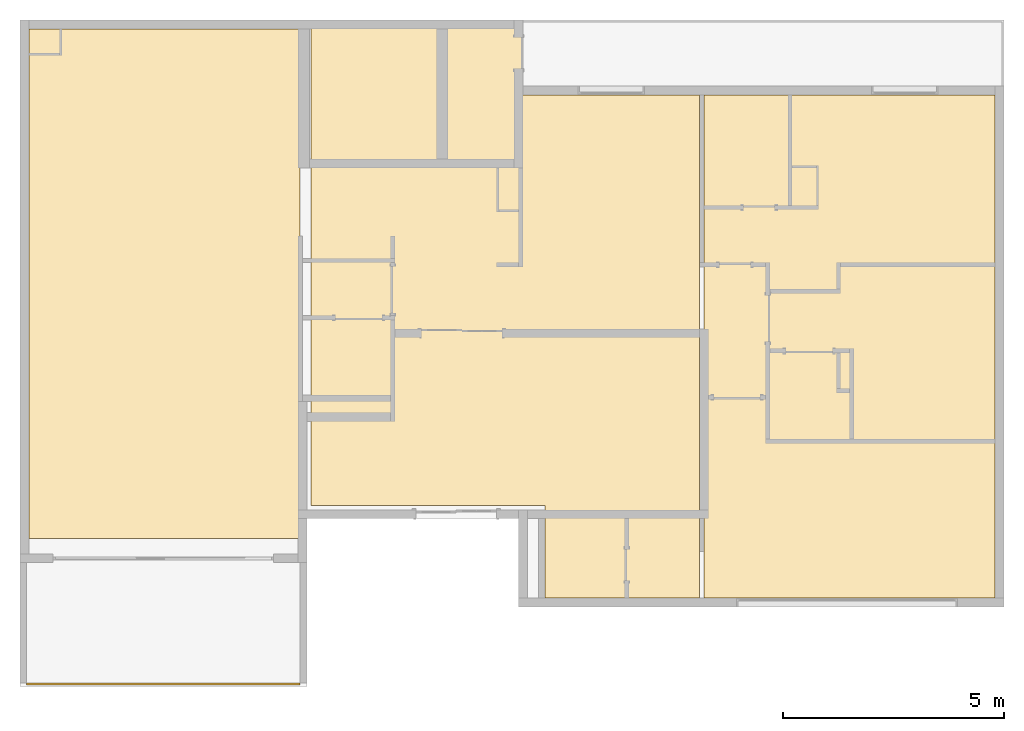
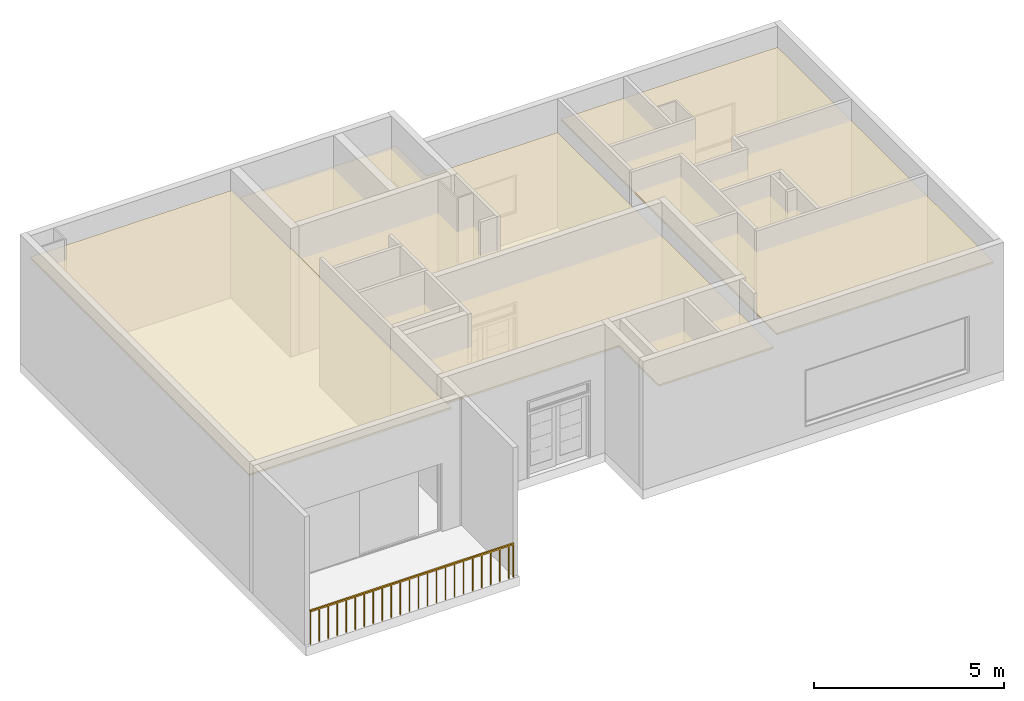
# One storey, part 7 of 8: 3 coverings, 1 railing.
"""IFC2X3 building model written with IfcOpenShell, lengths in metres."""

from ifc_helpers import new_model, entity, si_unit, converted_unit, derived_unit, direction, frame, frame_2d, origin, origin_2d_with_axis, place, context, subcontext, project, spatial, polyline, rectangle, outline, extrude, material, material_list, layer, layer_set, layer_usage, type_object, element, save


model = new_model("IFC2X3")

# Units and contexts
model_context = context("Model", 3, precision=1e-05, world=origin(), true_north=direction((6.123031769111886e-17, 1.0)))
body_context = subcontext(model_context, "Body", "Model", "MODEL_VIEW")
ifc_project = project(units=[si_unit("LENGTHUNIT", "METRE"), si_unit("AREAUNIT", "SQUARE_METRE"), si_unit("VOLUMEUNIT", "CUBIC_METRE"), converted_unit("PLANEANGLEUNIT", "DEGREE", entity("IfcRatioMeasure", 0.017453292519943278), si_unit("PLANEANGLEUNIT", "RADIAN"), dimensions=[0, 0, 0, 0, 0, 0, 0]), si_unit("MASSUNIT", "GRAM", prefix="KILO"), derived_unit("MASSDENSITYUNIT", [(si_unit("MASSUNIT", "GRAM", prefix="KILO"), 1), (si_unit("LENGTHUNIT", "METRE"), -3)]), derived_unit("MOMENTOFINERTIAUNIT", [(si_unit("LENGTHUNIT", "METRE"), 4)]), si_unit("TIMEUNIT", "SECOND"), si_unit("FREQUENCYUNIT", "HERTZ"), si_unit("THERMODYNAMICTEMPERATUREUNIT", "DEGREE_CELSIUS"), derived_unit("THERMALTRANSMITTANCEUNIT", [(si_unit("MASSUNIT", "GRAM", prefix="KILO"), 1), (si_unit("THERMODYNAMICTEMPERATUREUNIT", "KELVIN"), -1), (si_unit("TIMEUNIT", "SECOND"), -3)]), derived_unit("VOLUMETRICFLOWRATEUNIT", [(si_unit("LENGTHUNIT", "METRE"), 3), (si_unit("TIMEUNIT", "SECOND"), -1)]), derived_unit("MASSFLOWRATEUNIT", [(si_unit("MASSUNIT", "GRAM", prefix="KILO"), 1), (si_unit("TIMEUNIT", "SECOND"), -1)]), derived_unit("ROTATIONALFREQUENCYUNIT", [(si_unit("TIMEUNIT", "SECOND"), -1)]), si_unit("ELECTRICCURRENTUNIT", "AMPERE"), si_unit("ELECTRICVOLTAGEUNIT", "VOLT"), si_unit("POWERUNIT", "WATT"), si_unit("FORCEUNIT", "NEWTON", prefix="KILO"), si_unit("ILLUMINANCEUNIT", "LUX"), si_unit("LUMINOUSFLUXUNIT", "LUMEN"), si_unit("LUMINOUSINTENSITYUNIT", "CANDELA"), derived_unit("USERDEFINED", [(si_unit("MASSUNIT", "GRAM", prefix="KILO"), -1), (si_unit("LENGTHUNIT", "METRE"), -2), (si_unit("TIMEUNIT", "SECOND"), 3), (si_unit("LUMINOUSFLUXUNIT", "LUMEN"), 1)]), derived_unit("SOUNDPOWERUNIT", [(si_unit("MASSUNIT", "GRAM", prefix="KILO"), 1), (si_unit("LENGTHUNIT", "METRE"), 2), (si_unit("TIMEUNIT", "SECOND"), -3)]), derived_unit("SOUNDPRESSUREUNIT", [(si_unit("MASSUNIT", "GRAM", prefix="KILO"), 1), (si_unit("LENGTHUNIT", "METRE"), -1), (si_unit("TIMEUNIT", "SECOND"), -2)]), derived_unit("LINEARVELOCITYUNIT", [(si_unit("LENGTHUNIT", "METRE"), 1), (si_unit("TIMEUNIT", "SECOND"), -1)]), si_unit("PRESSUREUNIT", "PASCAL"), derived_unit("USERDEFINED", [(si_unit("LENGTHUNIT", "METRE"), -2), (si_unit("MASSUNIT", "GRAM", prefix="KILO"), 1), (si_unit("TIMEUNIT", "SECOND"), -2)]), derived_unit("LINEARFORCEUNIT", [(si_unit("MASSUNIT", "GRAM", prefix="KILO"), 1), (si_unit("LENGTHUNIT", "METRE"), 1), (si_unit("TIMEUNIT", "SECOND"), -2), (si_unit("LENGTHUNIT", "METRE"), -1)]), derived_unit("PLANARFORCEUNIT", [(si_unit("MASSUNIT", "GRAM", prefix="KILO"), 1), (si_unit("LENGTHUNIT", "METRE"), 1), (si_unit("TIMEUNIT", "SECOND"), -2), (si_unit("LENGTHUNIT", "METRE"), -2)])], contexts=[model_context])

# Site, building, storey
site_placement = place(None, origin())
site = spatial("IfcSite", under=ifc_project, at=site_placement, Name="Default", CompositionType="ELEMENT")
building_placement = place(site_placement, origin())
building = spatial("IfcBuilding", under=site, at=building_placement, CompositionType="ELEMENT")
storey_placement = place(building_placement, frame((0.0, 0.0, 1.1999999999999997)))
storey = spatial("IfcBuildingStorey", under=building, at=storey_placement, Name="G0", CompositionType="ELEMENT", Elevation=1.1999999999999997)

# Coverings
ifc_material_1 = material(Name="Metal - Stud Layer")
ifc_layer_1 = layer(ifc_material_1, 0.045)
ifc_material_2 = material(Name="Plasterboard")
ifc_layer_2 = layer(ifc_material_2, 0.011999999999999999)
ifc_layer_set = layer_set([ifc_layer_1, ifc_layer_2], Name="Compound Ceiling:Plain")
ifc_layer_usage_1 = layer_usage(ifc_layer_set, "AXIS3", "POSITIVE", 0.0)
covering_type_1 = type_object("IfcCoveringType", Name="Compound Ceiling:Plain", PredefinedType="CEILING")
covering_1_placement = place(storey_placement, origin())
element("IfcCovering", 1, at=covering_1_placement, inside=storey, type_object=covering_type_1, material=ifc_layer_usage_1, Name="Compound Ceiling:Plain", ObjectType="Compound Ceiling:Plain", PredefinedType="CEILING", context=body_context, shape_type="SweptSolid", body=[
    extrude(rectangle(XDim=6.149999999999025, YDim=11.545000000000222, at=frame_2d((4.440892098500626e-16, -4.440892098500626e-16), x_axis=(1.0, 0.0))), frame((9.88268321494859, 0.025190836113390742, 3.399999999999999)), (0.0, 0.0, 1.0), 0.05700000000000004),
])
ifc_layer_usage_2 = layer_usage(ifc_layer_set, "AXIS3", "POSITIVE", 0.0)
covering_type_2 = type_object("IfcCoveringType", Name="Compound Ceiling:Plain", PredefinedType="CEILING")
covering_2_placement = place(storey_placement, origin())
element("IfcCovering", 2, at=covering_2_placement, inside=storey, type_object=covering_type_2, material=ifc_layer_usage_2, Name="Compound Ceiling:Plain", ObjectType="Compound Ceiling:Plain", PredefinedType="CEILING", context=body_context, shape_type="SweptSolid", body=[
    extrude(rectangle(XDim=6.599999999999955, YDim=11.399999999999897, at=origin_2d_with_axis()), frame((25.407683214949, -1.4023091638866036, 3.399999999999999)), (0.0, 0.0, 1.0), 0.05700000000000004),
])
ifc_layer_usage_3 = layer_usage(ifc_layer_set, "AXIS3", "POSITIVE", 0.0)
covering_type_3 = type_object("IfcCoveringType", Name="Compound Ceiling:Plain", PredefinedType="CEILING")
covering_3_placement = place(storey_placement, origin())
element("IfcCovering", 3, at=covering_3_placement, inside=storey, type_object=covering_type_3, material=ifc_layer_usage_3, Name="Compound Ceiling:Plain", ObjectType="Compound Ceiling:Plain", PredefinedType="CEILING", context=body_context, shape_type="SweptSolid", body=[
    extrude(outline(polyline([(-4.075000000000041, 4.774999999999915), (-4.0750000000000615, -6.624999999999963), (-0.5749999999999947, -6.624999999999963), (-0.5749999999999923, -4.524999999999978), (4.725000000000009, -4.524999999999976), (4.725000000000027, 6.375000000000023), (-0.07499999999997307, 6.375000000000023), (-0.0749999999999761, 4.774999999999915), (-4.075000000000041, 4.774999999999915)])), frame((17.93268321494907, -0.47730916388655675, 3.0), z_axis=(0.0, 0.0, -1.0), x_axis=(-1.0, 0.0, 0.0)), (0.0, 0.0, -1.0), 0.05700000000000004),
])

# Railing
ifc_material_3 = material(Name="<Unnamed>")
ifc_material_list = material_list([ifc_material_3, ifc_material_3, ifc_material_3, ifc_material_3, ifc_material_3, ifc_material_3, ifc_material_3, ifc_material_3, ifc_material_3, ifc_material_3, ifc_material_3, ifc_material_3, ifc_material_3, ifc_material_3, ifc_material_3, ifc_material_3, ifc_material_3, ifc_material_3, ifc_material_3, ifc_material_3, ifc_material_3, ifc_material_3, ifc_material_3, ifc_material_3, ifc_material_3])
railing_placement = place(storey_placement, origin())
element("IfcRailing", 4, at=railing_placement, inside=storey, material=ifc_material_list, Name="Railing:1100mm", ObjectType="Railing:1100mm", PredefinedType="NOTDEFINED", context=body_context, shape_type="SweptSolid", body=[
    extrude(rectangle(XDim=0.025000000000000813, YDim=0.02499999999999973, at=frame_2d((0.0, -1.0824674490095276e-15), x_axis=(1.0, 0.0))), frame((12.807683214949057, -9.052309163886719, 0.0)), (0.0, 0.0, 1.0), 1.049999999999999),
    extrude(rectangle(XDim=0.025000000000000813, YDim=0.02499999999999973, at=origin_2d_with_axis()), frame((12.532683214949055, -9.052309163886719, 0.0)), (0.0, 0.0, 1.0), 1.049999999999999),
    extrude(rectangle(XDim=0.025000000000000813, YDim=0.02499999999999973, at=origin_2d_with_axis()), frame((12.257683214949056, -9.052309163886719, 0.0)), (0.0, 0.0, 1.0), 1.049999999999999),
    extrude(rectangle(XDim=0.025000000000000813, YDim=0.02499999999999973, at=origin_2d_with_axis()), frame((11.982683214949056, -9.052309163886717, 0.0)), (0.0, 0.0, 1.0), 1.049999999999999),
    extrude(rectangle(XDim=0.025000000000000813, YDim=0.02499999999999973, at=frame_2d((0.0, 1.0824674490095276e-15), x_axis=(1.0, 0.0))), frame((11.707683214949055, -9.052309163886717, 0.0)), (0.0, 0.0, 1.0), 1.049999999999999),
    extrude(rectangle(XDim=0.025000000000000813, YDim=0.02499999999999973, at=frame_2d((0.0, 1.0824674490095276e-15), x_axis=(1.0, 0.0))), frame((11.432683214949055, -9.052309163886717, 0.0)), (0.0, 0.0, 1.0), 1.049999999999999),
    extrude(rectangle(XDim=0.025000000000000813, YDim=0.02499999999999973, at=origin_2d_with_axis()), frame((11.157683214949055, -9.052309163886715, 0.0)), (0.0, 0.0, 1.0), 1.049999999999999),
    extrude(rectangle(XDim=0.025000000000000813, YDim=0.02499999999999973, at=origin_2d_with_axis()), frame((10.882683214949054, -9.052309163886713, 0.0)), (0.0, 0.0, 1.0), 1.049999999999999),
    extrude(rectangle(XDim=0.025000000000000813, YDim=0.02499999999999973, at=origin_2d_with_axis()), frame((10.607683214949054, -9.052309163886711, 0.0)), (0.0, 0.0, 1.0), 1.049999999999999),
    extrude(rectangle(XDim=0.025000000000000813, YDim=0.02499999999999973, at=frame_2d((0.0, -1.0824674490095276e-15), x_axis=(1.0, 0.0))), frame((10.332683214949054, -9.05230916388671, 0.0)), (0.0, 0.0, 1.0), 1.049999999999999),
    extrude(rectangle(XDim=0.025000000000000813, YDim=0.02499999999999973, at=frame_2d((0.0, -1.0824674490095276e-15), x_axis=(1.0, 0.0))), frame((10.057683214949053, -9.05230916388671, 0.0)), (0.0, 0.0, 1.0), 1.049999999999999),
    extrude(rectangle(XDim=0.025000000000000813, YDim=0.02499999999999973, at=origin_2d_with_axis()), frame((9.782683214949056, -9.05230916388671, 0.0)), (0.0, 0.0, 1.0), 1.049999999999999),
    extrude(rectangle(XDim=0.02499999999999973, YDim=0.02499999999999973, at=origin_2d_with_axis()), frame((9.507683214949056, -9.05230916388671, 0.0)), (0.0, 0.0, 1.0), 1.049999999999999),
    extrude(rectangle(XDim=0.02499999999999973, YDim=0.02499999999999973, at=origin_2d_with_axis()), frame((9.232683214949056, -9.052309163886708, 0.0)), (0.0, 0.0, 1.0), 1.049999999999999),
    extrude(rectangle(XDim=0.02499999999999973, YDim=0.02499999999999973, at=frame_2d((0.0, 1.0824674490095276e-15), x_axis=(1.0, 0.0))), frame((8.957683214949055, -9.052309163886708, 0.0)), (0.0, 0.0, 1.0), 1.049999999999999),
    extrude(rectangle(XDim=0.02499999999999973, YDim=0.02499999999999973, at=frame_2d((0.0, 1.0824674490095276e-15), x_axis=(1.0, 0.0))), frame((8.682683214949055, -9.052309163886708, 0.0)), (0.0, 0.0, 1.0), 1.049999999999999),
    extrude(rectangle(XDim=0.02499999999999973, YDim=0.02499999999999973, at=origin_2d_with_axis()), frame((8.407683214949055, -9.052309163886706, 0.0)), (0.0, 0.0, 1.0), 1.049999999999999),
    extrude(rectangle(XDim=0.02499999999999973, YDim=0.02499999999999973, at=frame_2d((1.0824674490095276e-15, 0.0), x_axis=(1.0, 0.0))), frame((8.132683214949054, -9.052309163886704, 0.0)), (0.0, 0.0, 1.0), 1.049999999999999),
    extrude(rectangle(XDim=0.02499999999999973, YDim=0.02499999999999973, at=origin_2d_with_axis()), frame((7.857683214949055, -9.052309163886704, 0.0)), (0.0, 0.0, 1.0), 1.049999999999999),
    extrude(rectangle(XDim=0.02499999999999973, YDim=0.02499999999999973, at=frame_2d((-1.0824674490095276e-15, -1.0824674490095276e-15), x_axis=(1.0, 0.0))), frame((7.582683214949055, -9.0523091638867, 0.0)), (0.0, 0.0, 1.0), 1.049999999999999),
    extrude(rectangle(XDim=0.02499999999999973, YDim=0.02499999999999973, at=frame_2d((0.0, -1.0824674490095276e-15), x_axis=(1.0, 0.0))), frame((7.307683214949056, -9.0523091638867, 0.0)), (0.0, 0.0, 1.0), 1.049999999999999),
    extrude(rectangle(XDim=0.02499999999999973, YDim=0.02499999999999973, at=origin_2d_with_axis()), frame((7.0326832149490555, -9.0523091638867, 0.0)), (0.0, 0.0, 1.0), 1.049999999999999),
    extrude(rectangle(XDim=0.025000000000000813, YDim=0.02499999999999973, at=frame_2d((0.0, -1.0824674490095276e-15), x_axis=(1.0, 0.0))), frame((12.945183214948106, -9.052309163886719, 0.0)), (0.0, 0.0, 1.0), 1.049999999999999),
    extrude(rectangle(XDim=0.02499999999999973, YDim=0.02499999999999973, at=origin_2d_with_axis()), frame((6.770183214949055, -9.0523091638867, 0.0)), (0.0, 0.0, 1.0), 1.049999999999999),
    extrude(rectangle(XDim=6.19999999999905, YDim=0.04999999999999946, at=origin_2d_with_axis()), frame((9.85768321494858, -9.05230916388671, 1.05)), (0.0, 0.0, 1.0), 0.05),
])

save(model, "model.ifc")
